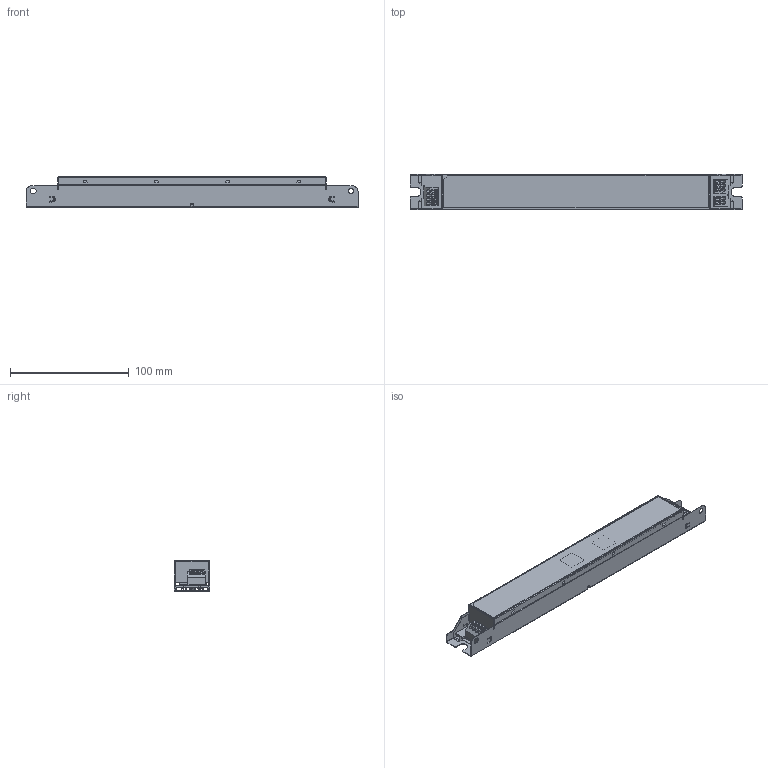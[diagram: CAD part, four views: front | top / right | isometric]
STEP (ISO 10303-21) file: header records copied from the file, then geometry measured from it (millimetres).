
FILE_DESCRIPTION((''),'2;1');
FILE_NAME('3D_USCT-040105L2A_ASM','2024-09-03T14:11:52',('ALBERT.LI'),(''),'CREO PARAMETRIC BY PTC INC, 2023294','CREO PARAMETRIC BY PTC INC, 2023294','');
FILE_SCHEMA(('CONFIG_CONTROL_DESIGN'));
Length unit declared in the file: millimetre
Products named in the file (12): BASE_192; COVER_76; PWB_131; DG250-3_5-02P-11-00AH; DG250-3_5-03P-11-00AH; DG250-3_5-04P-11-00AH; PWB-ASSY_ASM_92_ASM; MYLAR_180; LABEL_3; THERMAL_PAD_3247000100_1; ASSY-2CHANNEL_ASM_73_ASM; 3D_USCT-040105L2A_ASM
Assembly tree (12 placements, depth 4):
  3D_USCT-040105L2A_ASM
    ASSY-2CHANNEL_ASM_73_ASM
      BASE_192
      COVER_76
      PWB-ASSY_ASM_92_ASM
        PWB_131
        DG250-3_5-02P-11-00AH
        DG250-3_5-03P-11-00AH
        DG250-3_5-04P-11-00AH
      MYLAR_180
      LABEL_3
      THERMAL_PAD_3247000100_1  x2
Bounding box: 280 x 30 x 25.48 mm (x, y, z)
Volume: 35889.9 mm3; surface area: 147680.1 mm2
Topology: 10 solids, 10 shells, 1248 faces, 3480 edges, 2266 vertices
Faces by surface type: plane 962, cylinder 241, bspline 36, extrusion 9
Entity records: 41100 total; most frequent: CARTESIAN_POINT 8622, ORIENTED_EDGE 6936, DIRECTION 6356, EDGE_CURVE 3468, VECTOR 2866, LINE 2857, VERTEX_POINT 2258, AXIS2_PLACEMENT_3D 1745
